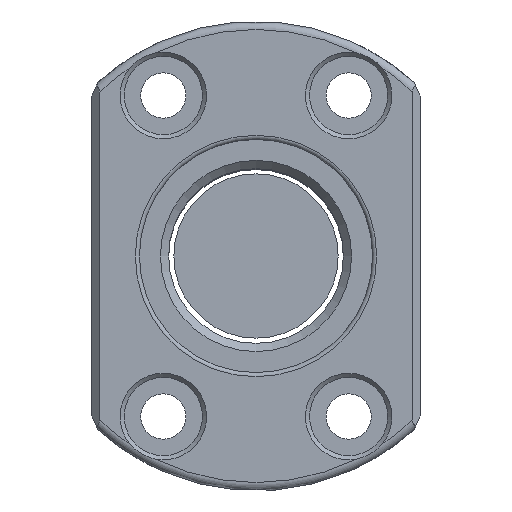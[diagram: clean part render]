
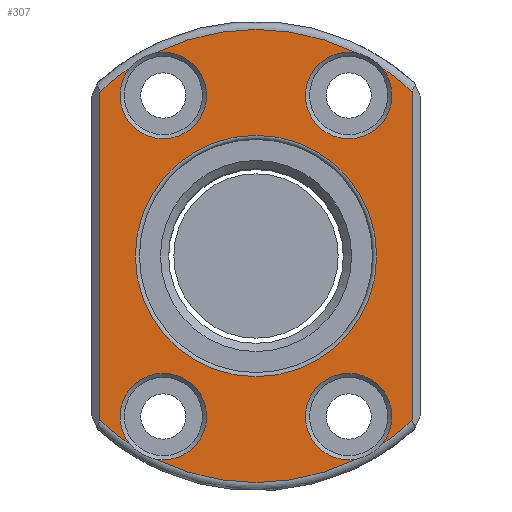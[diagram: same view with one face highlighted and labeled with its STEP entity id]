
A CAD part, front view. The second image highlights one B-rep face of the part: STEP entity #307.
In plain terms, the highlighted planar face has unit normal (0, -1, 0).
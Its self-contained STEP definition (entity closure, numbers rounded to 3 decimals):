
#61=LINE('',#2169,#101);
#62=LINE('',#2182,#102);
#101=VECTOR('',#1786,1.);
#102=VECTOR('',#1797,1.);
#213=PLANE('',#1491);
#307=ADVANCED_FACE('',(#464,#465),#213,.T.);
#464=FACE_BOUND('',#620,.T.);
#465=FACE_BOUND('',#621,.T.);
#620=EDGE_LOOP('',(#831));
#621=EDGE_LOOP('',(#832,#833,#834,#835,#836,#837,#838,#839,#840,#841,#842,
#843));
#831=ORIENTED_EDGE('',*,*,#1207,.T.);
#832=ORIENTED_EDGE('',*,*,#1208,.T.);
#833=ORIENTED_EDGE('',*,*,#1209,.T.);
#834=ORIENTED_EDGE('',*,*,#1210,.T.);
#835=ORIENTED_EDGE('',*,*,#1211,.T.);
#836=ORIENTED_EDGE('',*,*,#1212,.T.);
#837=ORIENTED_EDGE('',*,*,#1213,.T.);
#838=ORIENTED_EDGE('',*,*,#1214,.T.);
#839=ORIENTED_EDGE('',*,*,#1215,.T.);
#840=ORIENTED_EDGE('',*,*,#1216,.T.);
#841=ORIENTED_EDGE('',*,*,#1217,.T.);
#842=ORIENTED_EDGE('',*,*,#1218,.T.);
#843=ORIENTED_EDGE('',*,*,#1219,.T.);
#1074=VERTEX_POINT('',#2168);
#1075=VERTEX_POINT('',#2170);
#1076=VERTEX_POINT('',#2171);
#1077=VERTEX_POINT('',#2173);
#1078=VERTEX_POINT('',#2175);
#1079=VERTEX_POINT('',#2177);
#1080=VERTEX_POINT('',#2179);
#1081=VERTEX_POINT('',#2181);
#1082=VERTEX_POINT('',#2183);
#1083=VERTEX_POINT('',#2185);
#1084=VERTEX_POINT('',#2187);
#1085=VERTEX_POINT('',#2189);
#1086=VERTEX_POINT('',#2191);
#1207=EDGE_CURVE('',#1074,#1074,#1342,.T.);
#1208=EDGE_CURVE('',#1075,#1076,#61,.T.);
#1209=EDGE_CURVE('',#1076,#1077,#1343,.T.);
#1210=EDGE_CURVE('',#1077,#1078,#1344,.T.);
#1211=EDGE_CURVE('',#1078,#1079,#1345,.T.);
#1212=EDGE_CURVE('',#1079,#1080,#1346,.T.);
#1213=EDGE_CURVE('',#1080,#1081,#1347,.T.);
#1214=EDGE_CURVE('',#1081,#1082,#62,.T.);
#1215=EDGE_CURVE('',#1082,#1083,#1348,.T.);
#1216=EDGE_CURVE('',#1083,#1084,#1349,.T.);
#1217=EDGE_CURVE('',#1084,#1085,#1350,.T.);
#1218=EDGE_CURVE('',#1085,#1086,#1351,.T.);
#1219=EDGE_CURVE('',#1086,#1075,#1352,.T.);
#1342=CIRCLE('',#1480,14.65);
#1343=CIRCLE('',#1481,27.5);
#1344=CIRCLE('',#1482,5.25);
#1345=CIRCLE('',#1483,27.5);
#1346=CIRCLE('',#1484,5.25);
#1347=CIRCLE('',#1485,27.5);
#1348=CIRCLE('',#1486,27.5);
#1349=CIRCLE('',#1487,5.25);
#1350=CIRCLE('',#1488,27.5);
#1351=CIRCLE('',#1489,5.25);
#1352=CIRCLE('',#1490,27.5);
#1480=AXIS2_PLACEMENT_3D('',#2167,#1784,#1785);
#1481=AXIS2_PLACEMENT_3D('',#2172,#1787,#1788);
#1482=AXIS2_PLACEMENT_3D('',#2174,#1789,#1790);
#1483=AXIS2_PLACEMENT_3D('',#2176,#1791,#1792);
#1484=AXIS2_PLACEMENT_3D('',#2178,#1793,#1794);
#1485=AXIS2_PLACEMENT_3D('',#2180,#1795,#1796);
#1486=AXIS2_PLACEMENT_3D('',#2184,#1798,#1799);
#1487=AXIS2_PLACEMENT_3D('',#2186,#1800,#1801);
#1488=AXIS2_PLACEMENT_3D('',#2188,#1802,#1803);
#1489=AXIS2_PLACEMENT_3D('',#2190,#1804,#1805);
#1490=AXIS2_PLACEMENT_3D('',#2192,#1806,#1807);
#1491=AXIS2_PLACEMENT_3D('',#2193,#1808,#1809);
#1784=DIRECTION('',(0.,1.,0.));
#1785=DIRECTION('',(0.,0.,-1.));
#1786=DIRECTION('',(0.,0.,-1.));
#1787=DIRECTION('',(0.,-1.,0.));
#1788=DIRECTION('',(0.,0.,-1.));
#1789=DIRECTION('',(0.,1.,0.));
#1790=DIRECTION('',(0.,0.,-1.));
#1791=DIRECTION('',(0.,-1.,0.));
#1792=DIRECTION('',(0.,0.,-1.));
#1793=DIRECTION('',(0.,1.,0.));
#1794=DIRECTION('',(0.,0.,-1.));
#1795=DIRECTION('',(0.,-1.,0.));
#1796=DIRECTION('',(0.,0.,-1.));
#1797=DIRECTION('',(0.,0.,1.));
#1798=DIRECTION('',(0.,-1.,0.));
#1799=DIRECTION('',(0.,0.,-1.));
#1800=DIRECTION('',(0.,1.,0.));
#1801=DIRECTION('',(0.,0.,-1.));
#1802=DIRECTION('',(0.,-1.,0.));
#1803=DIRECTION('',(0.,0.,-1.));
#1804=DIRECTION('',(0.,1.,0.));
#1805=DIRECTION('',(0.,0.,-1.));
#1806=DIRECTION('',(0.,-1.,0.));
#1807=DIRECTION('',(0.,0.,-1.));
#1808=DIRECTION('',(0.,-1.,0.));
#1809=DIRECTION('',(0.,0.,-1.));
#2167=CARTESIAN_POINT('',(0.,0.,0.));
#2168=CARTESIAN_POINT('',(0.,0.,-14.65));
#2169=CARTESIAN_POINT('',(-19.,0.,-20.304));
#2170=CARTESIAN_POINT('',(-19.,0.,19.881));
#2171=CARTESIAN_POINT('',(-19.,0.,-19.881));
#2172=CARTESIAN_POINT('',(0.,0.,0.));
#2173=CARTESIAN_POINT('',(-15.253,0.,-22.882));
#2174=CARTESIAN_POINT('',(-11.25,0.,-19.486));
#2175=CARTESIAN_POINT('',(-12.19,0.,-24.651));
#2176=CARTESIAN_POINT('',(0.,0.,0.));
#2177=CARTESIAN_POINT('',(12.19,0.,-24.651));
#2178=CARTESIAN_POINT('',(11.25,0.,-19.486));
#2179=CARTESIAN_POINT('',(15.253,0.,-22.882));
#2180=CARTESIAN_POINT('',(0.,0.,0.));
#2181=CARTESIAN_POINT('',(19.,0.,-19.881));
#2182=CARTESIAN_POINT('',(19.,0.,0.));
#2183=CARTESIAN_POINT('',(19.,0.,19.881));
#2184=CARTESIAN_POINT('',(0.,0.,0.));
#2185=CARTESIAN_POINT('',(15.253,0.,22.882));
#2186=CARTESIAN_POINT('',(11.25,0.,19.486));
#2187=CARTESIAN_POINT('',(12.19,0.,24.651));
#2188=CARTESIAN_POINT('',(0.,0.,0.));
#2189=CARTESIAN_POINT('',(-12.19,0.,24.651));
#2190=CARTESIAN_POINT('',(-11.25,0.,19.486));
#2191=CARTESIAN_POINT('',(-15.253,0.,22.882));
#2192=CARTESIAN_POINT('',(0.,0.,0.));
#2193=CARTESIAN_POINT('',(0.,0.,0.));
